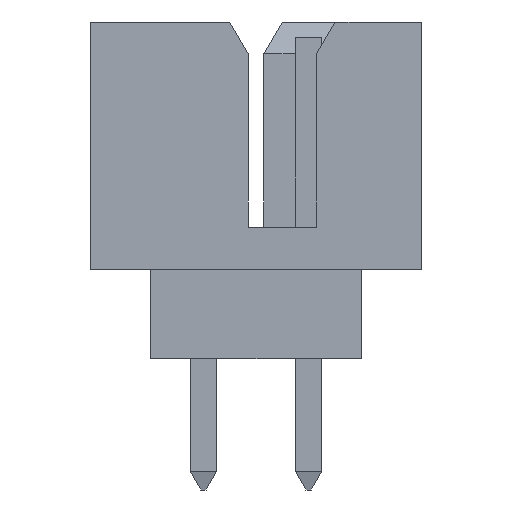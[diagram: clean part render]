
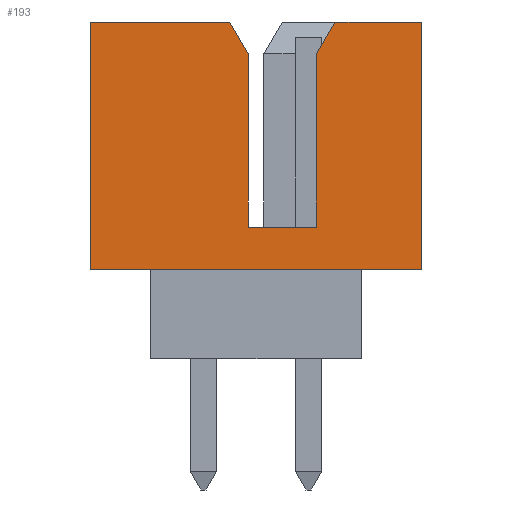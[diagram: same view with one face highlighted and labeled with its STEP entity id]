
A CAD part, left-side view. The second image highlights one B-rep face of the part: STEP entity #193.
In plain terms, the highlighted planar face has unit normal (-1, 0, 0).
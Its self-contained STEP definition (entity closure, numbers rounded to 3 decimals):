
#193=ADVANCED_FACE('',(#1338),#766,.T.);
#766=PLANE('',#10412);
#1338=FACE_OUTER_BOUND('',#1978,.T.);
#1978=EDGE_LOOP('',(#3206,#3207,#3208,#3209,#3210,#3211,#3212,#3213,#3214,
#3215));
#3206=ORIENTED_EDGE('',*,*,#6734,.F.);
#3207=ORIENTED_EDGE('',*,*,#6180,.T.);
#3208=ORIENTED_EDGE('',*,*,#6733,.F.);
#3209=ORIENTED_EDGE('',*,*,#6725,.F.);
#3210=ORIENTED_EDGE('',*,*,#6698,.T.);
#3211=ORIENTED_EDGE('',*,*,#6162,.T.);
#3212=ORIENTED_EDGE('',*,*,#6735,.F.);
#3213=ORIENTED_EDGE('',*,*,#6736,.F.);
#3214=ORIENTED_EDGE('',*,*,#6424,.F.);
#3215=ORIENTED_EDGE('',*,*,#6737,.F.);
#5278=VERTEX_POINT('',#13493);
#5279=VERTEX_POINT('',#13495);
#5289=VERTEX_POINT('',#13520);
#5294=VERTEX_POINT('',#13530);
#5462=VERTEX_POINT('',#14012);
#5463=VERTEX_POINT('',#14014);
#5731=VERTEX_POINT('',#14560);
#5753=VERTEX_POINT('',#14611);
#5759=VERTEX_POINT('',#14628);
#5760=VERTEX_POINT('',#14630);
#6162=EDGE_CURVE('',#5279,#5278,#7558,.T.);
#6180=EDGE_CURVE('',#5289,#5294,#7576,.T.);
#6424=EDGE_CURVE('',#5462,#5463,#7814,.T.);
#6698=EDGE_CURVE('',#5731,#5279,#8088,.T.);
#6725=EDGE_CURVE('',#5731,#5753,#8115,.T.);
#6733=EDGE_CURVE('',#5753,#5294,#8123,.T.);
#6734=EDGE_CURVE('',#5289,#5759,#8124,.T.);
#6735=EDGE_CURVE('',#5760,#5278,#8125,.T.);
#6736=EDGE_CURVE('',#5463,#5760,#8126,.T.);
#6737=EDGE_CURVE('',#5759,#5462,#8127,.T.);
#7558=LINE('',#13494,#8948);
#7576=LINE('',#13531,#8966);
#7814=LINE('',#14013,#9204);
#8088=LINE('',#14559,#9478);
#8115=LINE('',#14610,#9505);
#8123=LINE('',#14625,#9513);
#8124=LINE('',#14627,#9514);
#8125=LINE('',#14629,#9515);
#8126=LINE('',#14631,#9516);
#8127=LINE('',#14632,#9517);
#8948=VECTOR('',#10926,1.);
#8966=VECTOR('',#10950,1.);
#9204=VECTOR('',#11340,1.);
#9478=VECTOR('',#11622,1.);
#9505=VECTOR('',#11653,1.);
#9513=VECTOR('',#11663,1.);
#9514=VECTOR('',#11666,1.);
#9515=VECTOR('',#11667,1.);
#9516=VECTOR('',#11668,1.);
#9517=VECTOR('',#11669,1.);
#10412=AXIS2_PLACEMENT_3D('',#14633,#11670,#11671);
#10926=DIRECTION('',(0.,1.,0.));
#10950=DIRECTION('',(0.,1.,0.));
#11340=DIRECTION('',(0.,-1.,0.));
#11622=DIRECTION('',(0.,0.,1.));
#11653=DIRECTION('',(0.,1.,0.));
#11663=DIRECTION('',(0.,0.,1.));
#11666=DIRECTION('',(0.,-0.504,-0.864));
#11667=DIRECTION('',(0.,-0.504,0.864));
#11668=DIRECTION('',(0.,0.,1.));
#11669=DIRECTION('',(0.,0.,-1.));
#11670=DIRECTION('',(-1.,0.,0.));
#11671=DIRECTION('',(0.,0.,1.));
#13493=CARTESIAN_POINT('',(-17.325,-1.5,6.4));
#13494=CARTESIAN_POINT('',(-17.325,3.15,6.4));
#13495=CARTESIAN_POINT('',(-17.325,-3.15,6.4));
#13520=CARTESIAN_POINT('',(-17.325,0.5,6.4));
#13530=CARTESIAN_POINT('',(-17.325,3.15,6.4));
#13531=CARTESIAN_POINT('',(-17.325,3.15,6.4));
#14012=CARTESIAN_POINT('',(-17.325,0.15,2.5));
#14013=CARTESIAN_POINT('',(-17.325,3.15,2.5));
#14014=CARTESIAN_POINT('',(-17.325,-1.15,2.5));
#14559=CARTESIAN_POINT('',(-17.325,-3.15,6.4));
#14560=CARTESIAN_POINT('',(-17.325,-3.15,1.7));
#14610=CARTESIAN_POINT('',(-17.325,-3.15,1.7));
#14611=CARTESIAN_POINT('',(-17.325,3.15,1.7));
#14625=CARTESIAN_POINT('',(-17.325,3.15,6.4));
#14627=CARTESIAN_POINT('',(-17.325,1.173,7.553));
#14628=CARTESIAN_POINT('',(-17.325,0.15,5.8));
#14629=CARTESIAN_POINT('',(-17.325,-0.319,4.376));
#14630=CARTESIAN_POINT('',(-17.325,-1.15,5.8));
#14631=CARTESIAN_POINT('',(-17.325,-1.15,6.4));
#14632=CARTESIAN_POINT('',(-17.325,0.15,6.4));
#14633=CARTESIAN_POINT('',(-17.325,3.15,6.4));
